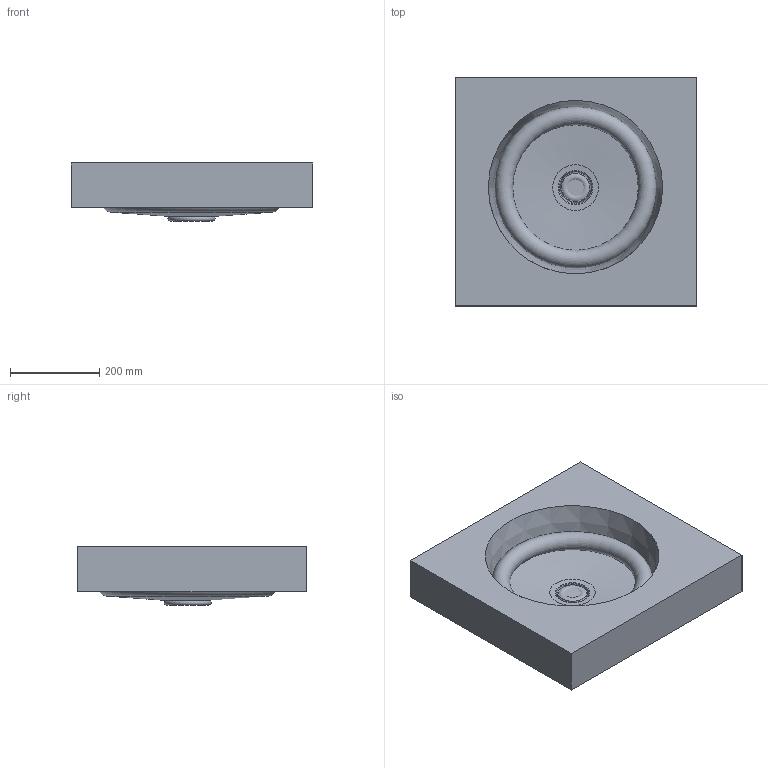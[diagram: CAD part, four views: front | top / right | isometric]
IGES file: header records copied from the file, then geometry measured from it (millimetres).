
Start section: Data from Parasolid IGES Translator 22.0.50, Copyright(c) 2006 Siemens P LM Software. All Rights Reserved.
Global section: file name: noorth-top-H 10 D 51,3 W 72_5299.igs; native system: By Siemens PLM Incorporated; preprocessor: XPlus GENERIC/IGES 22.0.50; author: Noname; organization: Noname; date: 20251105.215006; units: metre
Bounding box: 540 x 510 x 129.79 mm (x, y, z)
Volume: 9389498.3 mm3; surface area: 1128164.7 mm2
Topology: 3 solids, 3 shells, 43 faces, 85 edges, 52 vertices
Faces by surface type: plane 20, cone 11, cylinder 7, torus 5
Full cylindrical faces by diameter (mm): 4 x2, 34 x2, 46 x1, 64 x1
